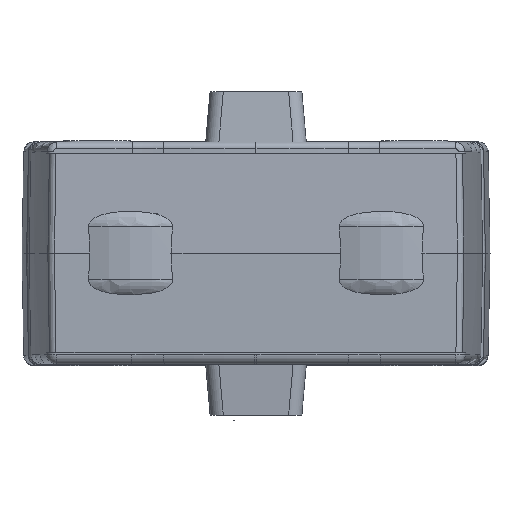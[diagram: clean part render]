
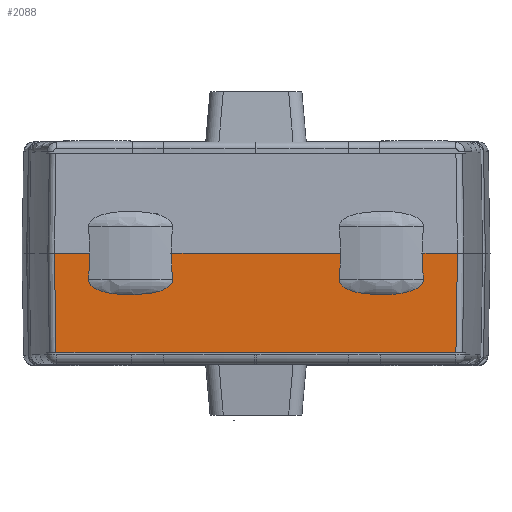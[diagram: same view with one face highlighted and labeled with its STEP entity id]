
A CAD part, top view. The second image highlights one B-rep face of the part: STEP entity #2088.
In plain terms, the highlighted planar face has unit normal (0, -0.018, 1).
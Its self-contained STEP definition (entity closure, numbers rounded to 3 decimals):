
#332=LINE('',#10997,#769);
#451=LINE('',#12158,#888);
#640=LINE('',#13995,#1077);
#769=VECTOR('',#8090,1.);
#888=VECTOR('',#8585,1.);
#1077=VECTOR('',#9398,1.);
#1419=B_SPLINE_CURVE_WITH_KNOTS('',3,(#11137,#11138,#11139,#11140),
 .UNSPECIFIED.,.F.,.F.,(4,4),(0.,1.),.UNSPECIFIED.);
#1420=B_SPLINE_CURVE_WITH_KNOTS('',3,(#11142,#11143,#11144,#11145),
 .UNSPECIFIED.,.F.,.F.,(4,4),(0.,1.),.UNSPECIFIED.);
#1518=B_SPLINE_CURVE_WITH_KNOTS('',3,(#14081,#14082,#14083,#14084,#14085,
#14086,#14087,#14088,#14089,#14090,#14091,#14092,#14093,#14094),
 .UNSPECIFIED.,.F.,.F.,(4,2,2,2,2,2,4),(0.,0.125,0.25,0.5,0.75,0.875,1.),
 .UNSPECIFIED.);
#1519=B_SPLINE_CURVE_WITH_KNOTS('',3,(#14096,#14097,#14098,#14099,#14100,
#14101,#14102,#14103,#14104,#14105,#14106,#14107,#14108,#14109,#14110,#14111),
 .UNSPECIFIED.,.F.,.F.,(4,2,2,2,2,2,2,4),(0.,0.125,0.25,0.5,0.75,0.875,
0.938,1.),.UNSPECIFIED.);
#1523=B_SPLINE_CURVE_WITH_KNOTS('',3,(#14162,#14163,#14164,#14165,#14166,
#14167,#14168,#14169,#14170,#14171,#14172,#14173,#14174),.UNSPECIFIED.,
 .F.,.F.,(4,3,3,3,4),(0.,0.092,0.183,0.498,
1.),.UNSPECIFIED.);
#1532=B_SPLINE_CURVE_WITH_KNOTS('',3,(#14324,#14325,#14326,#14327,#14328,
#14329,#14330,#14331,#14332,#14333,#14334,#14335,#14336),.UNSPECIFIED.,
 .F.,.F.,(4,3,3,3,4),(0.,0.502,0.817,0.908,
1.),.UNSPECIFIED.);
#1693=PLANE('',#7593);
#2088=ADVANCED_FACE('',(#2578),#1693,.T.);
#2578=FACE_OUTER_BOUND('',#2980,.T.);
#2980=EDGE_LOOP('',(#4927,#4928,#4929,#4930,#4931,#4932,#4933,#4934,#4935,
#4936,#4937,#4938,#4939));
#4927=ORIENTED_EDGE('',*,*,#6722,.T.);
#4928=ORIENTED_EDGE('',*,*,#6042,.F.);
#4929=ORIENTED_EDGE('',*,*,#6019,.F.);
#4930=ORIENTED_EDGE('',*,*,#6018,.F.);
#4931=ORIENTED_EDGE('',*,*,#5968,.T.);
#4932=ORIENTED_EDGE('',*,*,#6721,.F.);
#4933=ORIENTED_EDGE('',*,*,#5966,.T.);
#4934=ORIENTED_EDGE('',*,*,#6001,.F.);
#4935=ORIENTED_EDGE('',*,*,#6741,.T.);
#4936=ORIENTED_EDGE('',*,*,#6712,.F.);
#4937=ORIENTED_EDGE('',*,*,#6726,.T.);
#4938=ORIENTED_EDGE('',*,*,#6279,.F.);
#4939=ORIENTED_EDGE('',*,*,#6044,.F.);
#5243=VERTEX_POINT('',#10911);
#5244=VERTEX_POINT('',#10913);
#5245=VERTEX_POINT('',#10915);
#5246=VERTEX_POINT('',#10917);
#5265=VERTEX_POINT('',#10996);
#5270=VERTEX_POINT('',#11121);
#5272=VERTEX_POINT('',#11141);
#5273=VERTEX_POINT('',#11146);
#5286=VERTEX_POINT('',#11355);
#5287=VERTEX_POINT('',#11357);
#5431=VERTEX_POINT('',#12157);
#5700=VERTEX_POINT('',#13996);
#5701=VERTEX_POINT('',#13997);
#5966=EDGE_CURVE('',#5244,#5243,#6752,.T.);
#5968=EDGE_CURVE('',#5246,#5245,#6753,.T.);
#6001=EDGE_CURVE('',#5265,#5243,#332,.T.);
#6018=EDGE_CURVE('',#5246,#5272,#1419,.T.);
#6019=EDGE_CURVE('',#5272,#5273,#1420,.T.);
#6042=EDGE_CURVE('',#5273,#5286,#6757,.T.);
#6044=EDGE_CURVE('',#5287,#5270,#6758,.T.);
#6279=EDGE_CURVE('',#5270,#5431,#451,.T.);
#6712=EDGE_CURVE('',#5700,#5701,#640,.T.);
#6721=EDGE_CURVE('',#5244,#5245,#1518,.T.);
#6722=EDGE_CURVE('',#5287,#5286,#1519,.T.);
#6726=EDGE_CURVE('',#5700,#5431,#1523,.T.);
#6741=EDGE_CURVE('',#5265,#5701,#1532,.T.);
#6752=ELLIPSE('',#7061,1145.974,20.);
#6753=ELLIPSE('',#7063,1145.974,20.);
#6757=ELLIPSE('',#7088,1145.974,20.);
#6758=ELLIPSE('',#7090,1145.974,20.);
#7061=AXIS2_PLACEMENT_3D('',#10912,#8033,#8034);
#7063=AXIS2_PLACEMENT_3D('',#10916,#8037,#8038);
#7088=AXIS2_PLACEMENT_3D('',#11354,#8121,#8122);
#7090=AXIS2_PLACEMENT_3D('',#11358,#8125,#8126);
#7593=AXIS2_PLACEMENT_3D('',#14350,#9441,#9442);
#8033=DIRECTION('',(0.,0.017,-1.));
#8034=DIRECTION('',(0.,1.,0.017));
#8037=DIRECTION('',(0.,0.017,-1.));
#8038=DIRECTION('',(0.,1.,0.017));
#8090=DIRECTION('',(1.,0.,0.));
#8121=DIRECTION('',(0.,-0.017,1.));
#8122=DIRECTION('',(0.,1.,0.017));
#8125=DIRECTION('',(0.,-0.017,1.));
#8126=DIRECTION('',(0.,1.,0.017));
#8585=DIRECTION('',(1.,0.,0.));
#9398=DIRECTION('',(-1.,0.,0.));
#9441=DIRECTION('',(0.,-0.017,1.));
#9442=DIRECTION('',(0.,-1.,-0.017));
#10911=CARTESIAN_POINT('',(-25.057,-11.355,43.511));
#10912=CARTESIAN_POINT('',(-18.94,-1102.3,24.47));
#10913=CARTESIAN_POINT('',(-25.27,-15.355,43.441));
#10915=CARTESIAN_POINT('',(-12.616,-15.355,43.443));
#10916=CARTESIAN_POINT('',(-18.94,-1102.3,24.47));
#10917=CARTESIAN_POINT('',(-12.829,-11.355,43.513));
#10996=CARTESIAN_POINT('',(-30.42,-11.355,43.51));
#10997=CARTESIAN_POINT('',(14.54,-11.355,43.518));
#11121=CARTESIAN_POINT('',(25.045,-11.355,43.518));
#11137=CARTESIAN_POINT('',(-12.829,-11.355,43.513));
#11138=CARTESIAN_POINT('',(-10.816,-11.355,43.514));
#11139=CARTESIAN_POINT('',(-8.803,-11.355,43.514));
#11140=CARTESIAN_POINT('',(-6.789,-11.355,43.514));
#11141=CARTESIAN_POINT('',(-6.789,-11.355,43.514));
#11142=CARTESIAN_POINT('',(-6.789,-11.355,43.514));
#11143=CARTESIAN_POINT('',(-0.261,-11.355,43.515));
#11144=CARTESIAN_POINT('',(6.267,-11.355,43.516));
#11145=CARTESIAN_POINT('',(12.795,-11.355,43.517));
#11146=CARTESIAN_POINT('',(12.795,-11.355,43.517));
#11354=CARTESIAN_POINT('',(18.923,-1102.162,24.479));
#11355=CARTESIAN_POINT('',(12.585,-15.355,43.448));
#11357=CARTESIAN_POINT('',(25.254,-15.355,43.45));
#11358=CARTESIAN_POINT('',(18.923,-1102.162,24.479));
#12157=CARTESIAN_POINT('',(30.402,-11.355,43.521));
#12158=CARTESIAN_POINT('',(14.54,-11.355,43.518));
#13995=CARTESIAN_POINT('',(14.54,-26.358,43.256));
#13996=CARTESIAN_POINT('',(30.172,-26.358,43.259));
#13997=CARTESIAN_POINT('',(-30.191,-26.358,43.248));
#14081=CARTESIAN_POINT('',(-25.27,-15.355,43.441));
#14082=CARTESIAN_POINT('',(-25.303,-15.972,43.43));
#14083=CARTESIAN_POINT('',(-24.739,-16.443,43.422));
#14084=CARTESIAN_POINT('',(-23.684,-17.012,43.413));
#14085=CARTESIAN_POINT('',(-23.103,-17.185,43.41));
#14086=CARTESIAN_POINT('',(-21.341,-17.571,43.403));
#14087=CARTESIAN_POINT('',(-20.142,-17.65,43.402));
#14088=CARTESIAN_POINT('',(-17.74,-17.649,43.402));
#14089=CARTESIAN_POINT('',(-16.547,-17.571,43.404));
#14090=CARTESIAN_POINT('',(-14.789,-17.186,43.411));
#14091=CARTESIAN_POINT('',(-14.196,-17.01,43.414));
#14092=CARTESIAN_POINT('',(-13.137,-16.437,43.424));
#14093=CARTESIAN_POINT('',(-12.583,-15.969,43.433));
#14094=CARTESIAN_POINT('',(-12.616,-15.355,43.443));
#14096=CARTESIAN_POINT('',(25.254,-15.355,43.45));
#14097=CARTESIAN_POINT('',(25.286,-15.97,43.439));
#14098=CARTESIAN_POINT('',(24.731,-16.439,43.431));
#14099=CARTESIAN_POINT('',(23.669,-17.013,43.421));
#14100=CARTESIAN_POINT('',(23.082,-17.187,43.418));
#14101=CARTESIAN_POINT('',(21.33,-17.571,43.411));
#14102=CARTESIAN_POINT('',(20.12,-17.652,43.409));
#14103=CARTESIAN_POINT('',(17.718,-17.651,43.409));
#14104=CARTESIAN_POINT('',(16.509,-17.572,43.41));
#14105=CARTESIAN_POINT('',(14.753,-17.186,43.416));
#14106=CARTESIAN_POINT('',(14.165,-17.01,43.419));
#14107=CARTESIAN_POINT('',(13.376,-16.584,43.426));
#14108=CARTESIAN_POINT('',(13.12,-16.41,43.429));
#14109=CARTESIAN_POINT('',(12.714,-15.956,43.437));
#14110=CARTESIAN_POINT('',(12.569,-15.659,43.442));
#14111=CARTESIAN_POINT('',(12.585,-15.355,43.448));
#14162=CARTESIAN_POINT('',(30.172,-26.358,43.259));
#14163=CARTESIAN_POINT('',(30.179,-25.896,43.267));
#14164=CARTESIAN_POINT('',(30.186,-25.434,43.275));
#14165=CARTESIAN_POINT('',(30.193,-24.973,43.283));
#14166=CARTESIAN_POINT('',(30.2,-24.52,43.291));
#14167=CARTESIAN_POINT('',(30.207,-24.067,43.299));
#14168=CARTESIAN_POINT('',(30.214,-23.614,43.307));
#14169=CARTESIAN_POINT('',(30.238,-22.039,43.334));
#14170=CARTESIAN_POINT('',(30.262,-20.464,43.362));
#14171=CARTESIAN_POINT('',(30.286,-18.889,43.389));
#14172=CARTESIAN_POINT('',(30.325,-16.378,43.433));
#14173=CARTESIAN_POINT('',(30.363,-13.866,43.477));
#14174=CARTESIAN_POINT('',(30.402,-11.355,43.521));
#14324=CARTESIAN_POINT('',(-30.42,-11.355,43.51));
#14325=CARTESIAN_POINT('',(-30.382,-13.866,43.466));
#14326=CARTESIAN_POINT('',(-30.343,-16.378,43.422));
#14327=CARTESIAN_POINT('',(-30.305,-18.889,43.379));
#14328=CARTESIAN_POINT('',(-30.281,-20.464,43.351));
#14329=CARTESIAN_POINT('',(-30.257,-22.039,43.324));
#14330=CARTESIAN_POINT('',(-30.233,-23.614,43.296));
#14331=CARTESIAN_POINT('',(-30.226,-24.067,43.288));
#14332=CARTESIAN_POINT('',(-30.219,-24.52,43.28));
#14333=CARTESIAN_POINT('',(-30.212,-24.973,43.272));
#14334=CARTESIAN_POINT('',(-30.205,-25.434,43.264));
#14335=CARTESIAN_POINT('',(-30.198,-25.896,43.256));
#14336=CARTESIAN_POINT('',(-30.191,-26.358,43.248));
#14350=CARTESIAN_POINT('',(14.54,-17.355,43.413));
